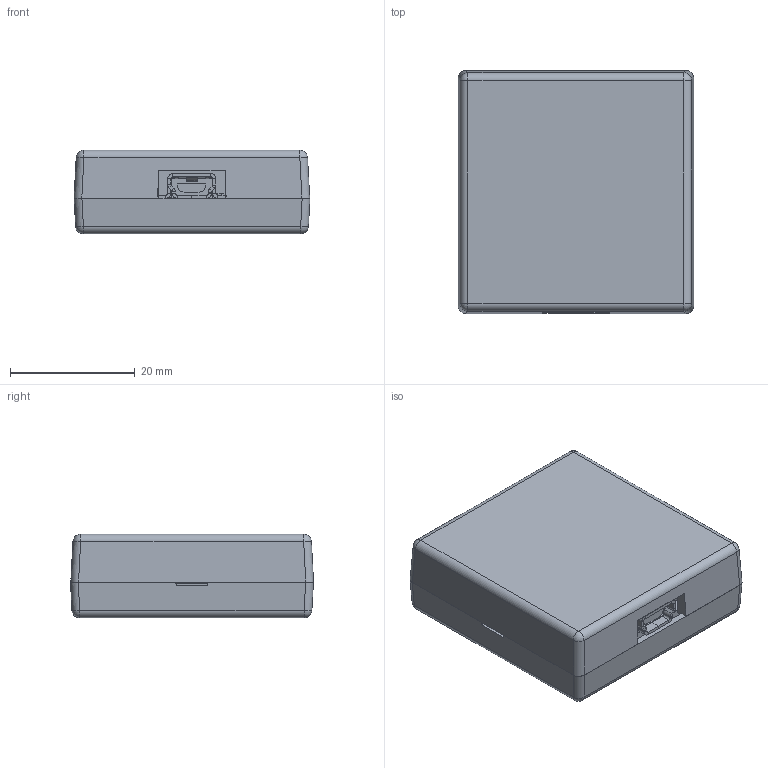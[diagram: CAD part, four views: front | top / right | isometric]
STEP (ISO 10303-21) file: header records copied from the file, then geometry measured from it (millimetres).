
FILE_DESCRIPTION(/* description */ ('Alibre Inc.'),/* implementation_level */ '2;1');
FILE_NAME(/* name */ 'export-219F9403-3B63-48E3-8A9D-3EEC93CC6FCD',/* time_stamp */ '2021-04-14T12:37:46-06:00',/* author */ (''),/* organization */ (''),/* preprocessor_version */ 'ST-DEVELOPER v17',/* originating_system */ 'Alibre',/* authorisation */ '');
FILE_SCHEMA (('CONFIG_CONTROL_DESIGN'));
Length unit declared in the file: millimetre
Products named in the file (107): ID_1; User_Library-SOT-23-1; U9; U2; 5639852032; 5639851840; C36; R1; Q1; 5639850880; U1; 1044_2-DC; U7; R10; 5639850688; R2; J1; 5639851456; 5639851648; C24; 5639851072; 5639851264; C23; 5639849920; U11; 5639849536; U6; 5639849728; U5; 5639850112; U4; U3; R4; O1; L1; C35; C34; 5639850496; 5639850304; C33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
Bounding box: 37.86 x 39.01 x 13.42 mm (x, y, z)
Volume: 9406.2 mm3; surface area: 13850.7 mm2
Topology: 116 solids, 116 shells, 1783 faces, 4325 edges, 2762 vertices
Faces by surface type: plane 1329, cylinder 313, bspline 119, sphere 10, cone 8, torus 4
Full cylindrical faces by diameter (mm): 0.381 x4, 0.965 x36, 1 x2, 3.099 x4, 3.175 x4
Entity records: 51006 total; most frequent: CARTESIAN_POINT 10609, ORIENTED_EDGE 5898, DIRECTION 5130, EDGE_CURVE 2949, VECTOR 2197, LINE 2197, VERTEX_POINT 1878, AXIS2_PLACEMENT_3D 1871
